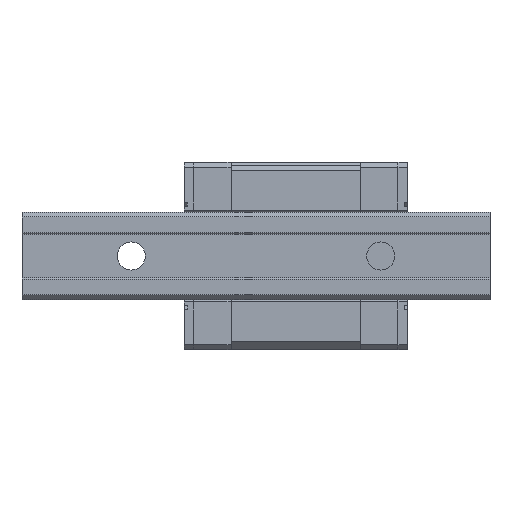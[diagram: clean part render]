
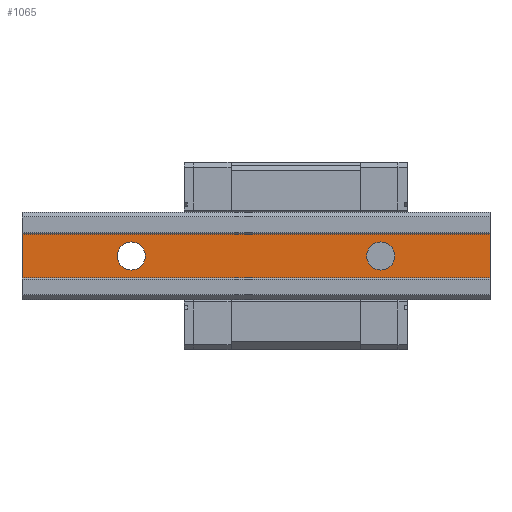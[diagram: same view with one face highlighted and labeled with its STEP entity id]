
A CAD part, front view. The second image highlights one B-rep face of the part: STEP entity #1065.
In plain terms, the highlighted planar face has unit normal (0, -1, 0).
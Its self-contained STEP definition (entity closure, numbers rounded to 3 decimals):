
#1065 = ADVANCED_FACE( '', ( #2255, #2256, #2257 ), #2258, .F. );
#2255 = FACE_BOUND( '', #3654, .T. );
#2256 = FACE_BOUND( '', #3655, .T. );
#2257 = FACE_OUTER_BOUND( '', #3656, .T. );
#2258 = PLANE( '', #3657 );
#3654 = EDGE_LOOP( '', ( #6241 ) );
#3655 = EDGE_LOOP( '', ( #6242 ) );
#3656 = EDGE_LOOP( '', ( #6243, #6244, #6245, #6246 ) );
#3657 = AXIS2_PLACEMENT_3D( '', #6247, #6248, #6249 );
#6241 = ORIENTED_EDGE( '', *, *, #9383, .F. );
#6242 = ORIENTED_EDGE( '', *, *, #9318, .F. );
#6243 = ORIENTED_EDGE( '', *, *, #9384, .T. );
#6244 = ORIENTED_EDGE( '', *, *, #8466, .F. );
#6245 = ORIENTED_EDGE( '', *, *, #9385, .F. );
#6246 = ORIENTED_EDGE( '', *, *, #9386, .T. );
#6247 = CARTESIAN_POINT( '', ( 75., 0.5, 7. ) );
#6248 = DIRECTION( '', ( 0., 1., 0. ) );
#6249 = DIRECTION( '', ( 0., 0., 1. ) );
#8466 = EDGE_CURVE( '', #10076, #10071, #10078, .T. );
#9318 = EDGE_CURVE( '', #11475, #11475, #11476, .F. );
#9383 = EDGE_CURVE( '', #11564, #11564, #11565, .F. );
#9384 = EDGE_CURVE( '', #11566, #10071, #11567, .T. );
#9385 = EDGE_CURVE( '', #11568, #10076, #11569, .T. );
#9386 = EDGE_CURVE( '', #11568, #11566, #11570, .T. );
#10071 = VERTEX_POINT( '', #12433 );
#10076 = VERTEX_POINT( '', #12440 );
#10078 = LINE( '', #12443, #12444 );
#11475 = VERTEX_POINT( '', #14485 );
#11476 = CIRCLE( '', #14486, 4.5 );
#11564 = VERTEX_POINT( '', #14615 );
#11565 = CIRCLE( '', #14616, 4.5 );
#11566 = VERTEX_POINT( '', #14617 );
#11567 = LINE( '', #14618, #14619 );
#11568 = VERTEX_POINT( '', #14620 );
#11569 = LINE( '', #14621, #14622 );
#11570 = LINE( '', #14623, #14624 );
#12433 = CARTESIAN_POINT( '', ( -75., 0.5, -7. ) );
#12440 = CARTESIAN_POINT( '', ( 75., 0.5, -7. ) );
#12443 = CARTESIAN_POINT( '', ( 75., 0.5, -7. ) );
#12444 = VECTOR( '', #15756, 1000. );
#14485 = CARTESIAN_POINT( '', ( -40., 0.5, 4.5 ) );
#14486 = AXIS2_PLACEMENT_3D( '', #16599, #16600, #16601 );
#14615 = CARTESIAN_POINT( '', ( 40., 0.5, 4.5 ) );
#14616 = AXIS2_PLACEMENT_3D( '', #16655, #16656, #16657 );
#14617 = CARTESIAN_POINT( '', ( -75., 0.5, 7. ) );
#14618 = CARTESIAN_POINT( '', ( -75., 0.5, 7. ) );
#14619 = VECTOR( '', #16658, 1000. );
#14620 = CARTESIAN_POINT( '', ( 75., 0.5, 7. ) );
#14621 = CARTESIAN_POINT( '', ( 75., 0.5, 7. ) );
#14622 = VECTOR( '', #16659, 1000. );
#14623 = CARTESIAN_POINT( '', ( 75., 0.5, 7. ) );
#14624 = VECTOR( '', #16660, 1000. );
#15756 = DIRECTION( '', ( -1., 0., 0. ) );
#16599 = CARTESIAN_POINT( '', ( -40., 0.5, 0. ) );
#16600 = DIRECTION( '', ( 0., 1., 0. ) );
#16601 = DIRECTION( '', ( 0., 0., 1. ) );
#16655 = CARTESIAN_POINT( '', ( 40., 0.5, 0. ) );
#16656 = DIRECTION( '', ( 0., 1., 0. ) );
#16657 = DIRECTION( '', ( 0., 0., 1. ) );
#16658 = DIRECTION( '', ( 0., 0., -1. ) );
#16659 = DIRECTION( '', ( 0., 0., -1. ) );
#16660 = DIRECTION( '', ( -1., 0., 0. ) );
